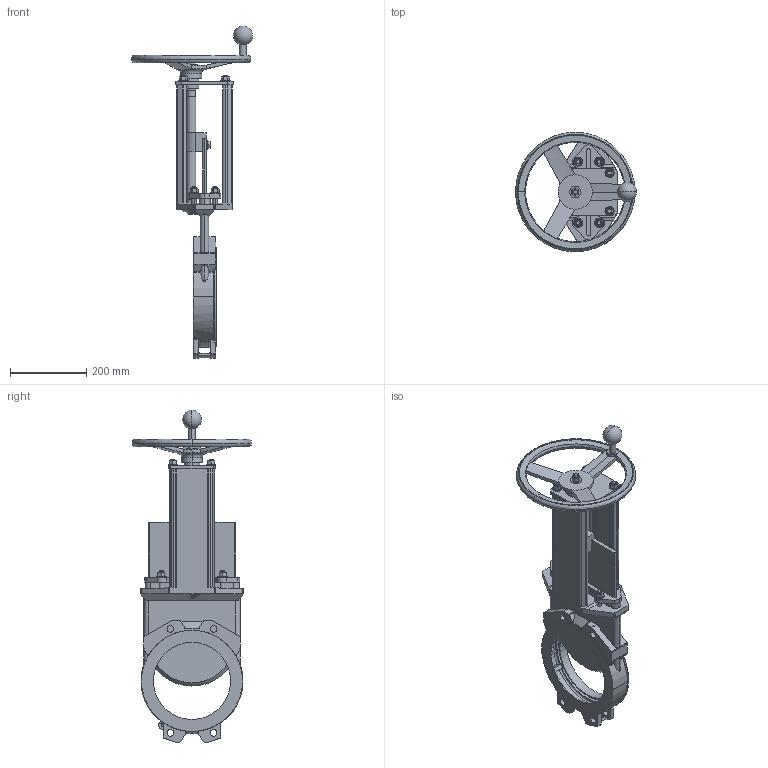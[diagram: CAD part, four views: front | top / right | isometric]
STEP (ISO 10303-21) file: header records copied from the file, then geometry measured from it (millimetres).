
FILE_DESCRIPTION(('STEP AP203'),'1');
FILE_NAME('G:/KONSTRUK/3-d block för CD/MV VALVE/HAND WHEEL/200/MV-DN200-PN10-HW.stp','2013-03-15T12:51:14',(' '),(' '),'Spatial InterOp 3D',' ',' ');
FILE_SCHEMA(('CONFIG_CONTROL_DESIGN'));
Length unit declared in the file: millimetre
Products named in the file (1): 1
Bounding box: 317.11 x 313 x 869.49 mm (x, y, z)
Volume: 4794396.1 mm3; surface area: 1042877.9 mm2
Topology: 1 solids, 7 shells, 956 faces, 2490 edges, 1583 vertices
Faces by surface type: cylinder 390, plane 352, cone 177, torus 23, bspline 12, sphere 2
Entity records: 31862 total; most frequent: CARTESIAN_POINT 8475, DIRECTION 5024, ORIENTED_EDGE 4960, EDGE_CURVE 2480, AXIS2_PLACEMENT_3D 1986, VERTEX_POINT 1583, EDGE_LOOP 1055, LINE 1052
